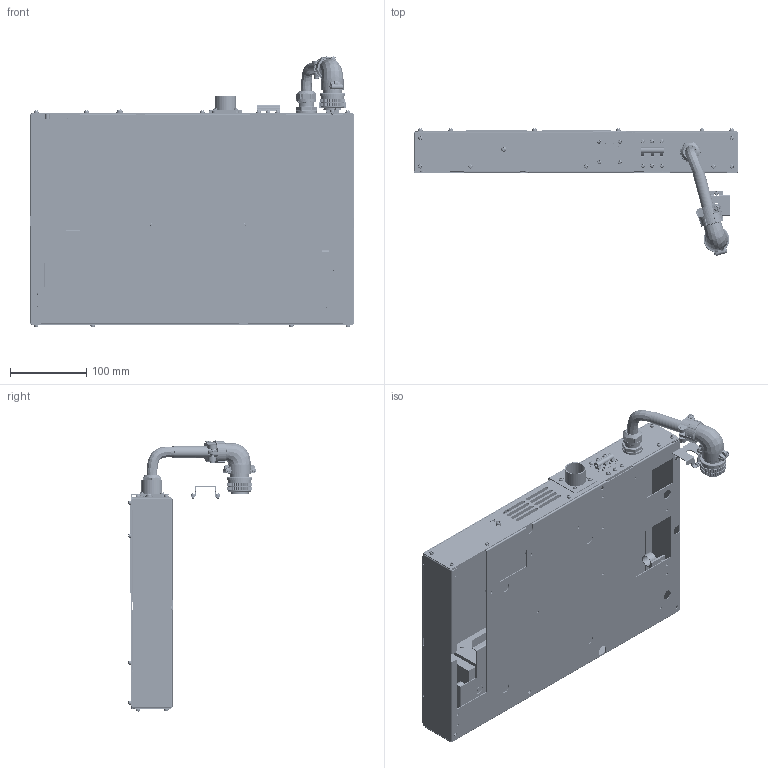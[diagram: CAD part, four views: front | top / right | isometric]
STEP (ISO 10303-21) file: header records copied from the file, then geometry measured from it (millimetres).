
FILE_DESCRIPTION (( 'STEP AP214' ), '1' );
FILE_NAME ('350050-100 YRC1000micro GP4_GP7_GP8.STEP', '2023-10-09T11:54:37', ( '' ), ( '' ), 'SwSTEP 2.0', 'SolidWorks 2022', '' );
FILE_SCHEMA (( 'AUTOMOTIVE_DESIGN' ));
Length unit declared in the file: millimetre
Products named in the file (32): hb1401200; lt-c34g801w; 350050-100 YRC1000micro GP4_GP7_GP8; hb1302032; nj4286; yrc1000micro_v01_1; m3xl5_p4screw; hb1200218; ce05-2a18-10pd-d_r_s; hb1302043; nj4015_78x20; 8242010 Cable clamp (DMS3057-10A); m4x8l_p3screw; hb1401183; dfb; dfb-m4-9s_sel-spacer_r_s; nj1821-1; 8240101 Connector plug angled (DMS3108B18-10S); nj1819; m5x8l_p3screw; Part5^350050-100 YRC1000micro GP4_GP7_GP8; oa-w1613; hb1302041; alc-11; nj3869-n; 2210-s231-p1m3-h0-16a_r_s; hb1200218-frame; lt-c32g801ws; hb1200221; m4x8l_p4screw; fn3258-30-47
Assembly tree (94 placements, depth 3):
  350050-100 YRC1000micro GP4_GP7_GP8
    hb1200218-frame
      hb1200218
      dfb-m4-9s_sel-spacer_r_s  x14
    hb1302032
    m3xl5_p4screw  x35
    hb1200221
    m4x8l_p3screw  x11
    hb1401183
    lt-c34g801w
    hb1302043
      hb1302043
      dfb  x2
    ce05-2a18-10pd-d_r_s
    2210-s231-p1m3-h0-16a_r_s
    nj1821-1  x3
    fn3258-30-47
    m5x8l_p3screw  x4
    hb1302041
    alc-11
    m4x8l_p4screw
    oa-w1613
    nj4286
    nj3869-n
    nj4015_78x20
    nj1819
    lt-c32g801ws
    yrc1000micro_v01_1
    hb1401200
    8240101 Connector plug angled (DMS3108B18-10S)
    8242010 Cable clamp (DMS3057-10A)
    Part5^350050-100 YRC1000micro GP4_GP7_GP8
Bounding box: 425 x 167.68 x 355.93 mm (x, y, z)
Volume: 46628.4 mm3; surface area: 973339.6 mm2
Topology: 3 solids, 6422 shells, 11079 faces, 46892 edges, 42255 vertices
Faces by surface type: plane 5241, cylinder 4180, bspline 905, torus 420, cone 268, sphere 65
Entity records: 951239 total; most frequent: CARTESIAN_POINT 412309, DIRECTION 101468, ORIENTED_EDGE 84118, EDGE_CURVE 69440, VERTEX_POINT 63032, LINE 41340, VECTOR 41340, AXIS2_PLACEMENT_3D 30064
